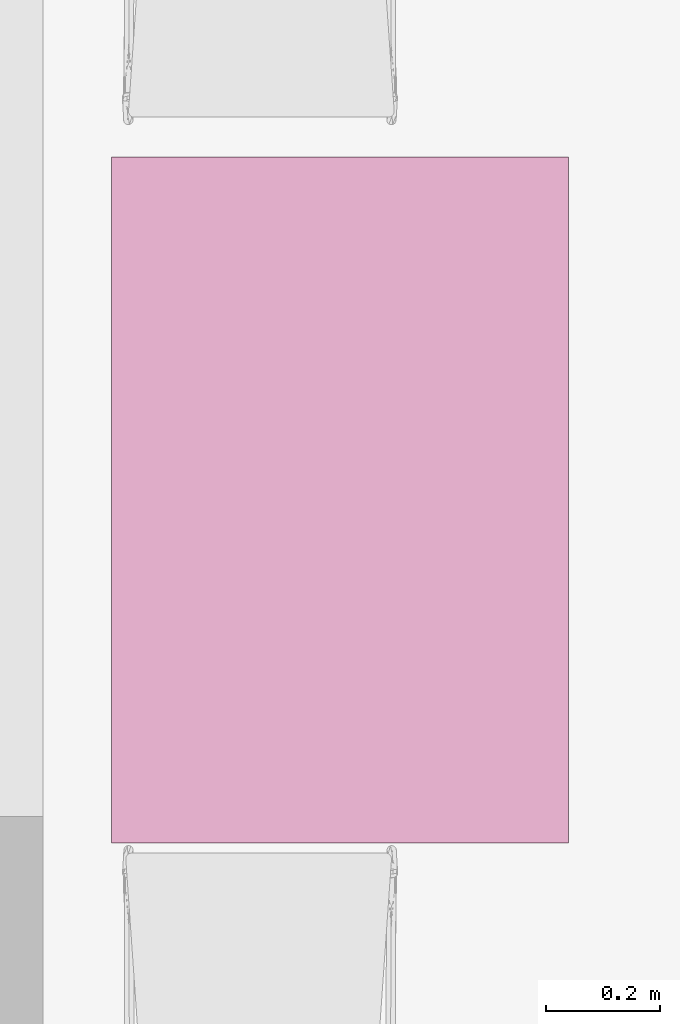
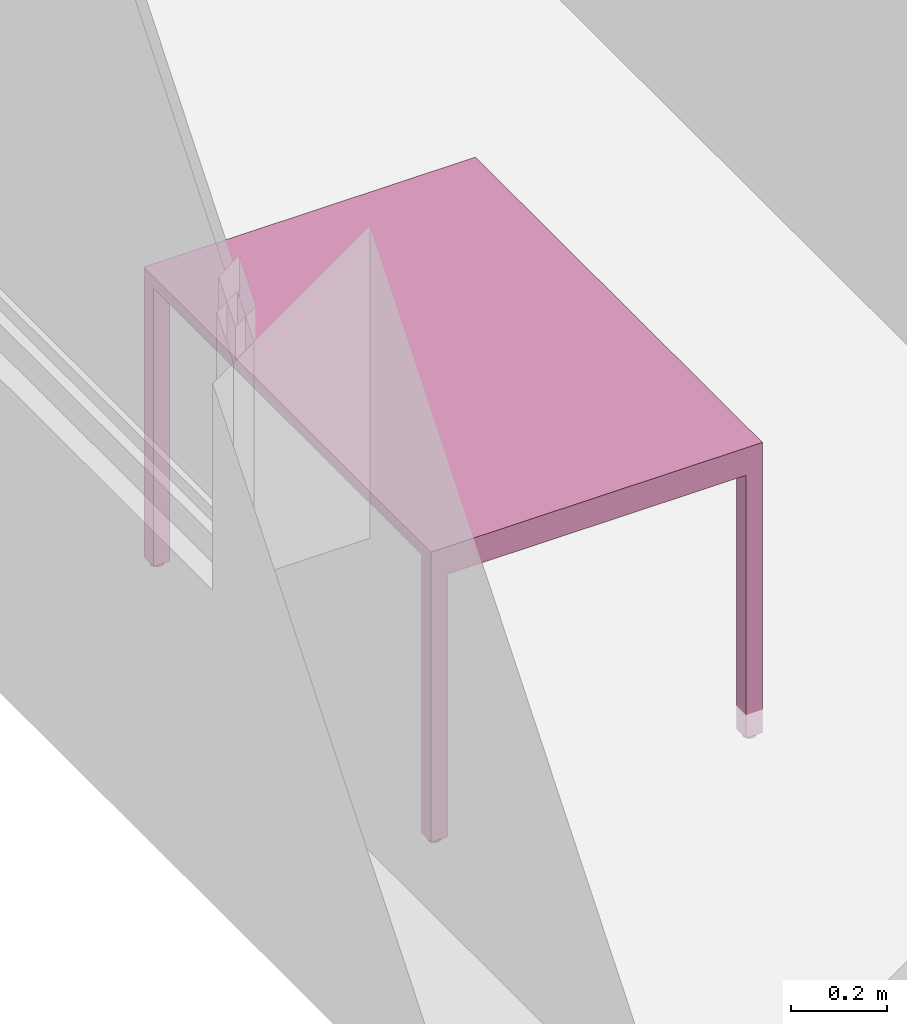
# One storey, part 28 of 48: 1 furnishing.
"""IFC2X3 building model written with IfcOpenShell, lengths in millimetres."""

from ifc_helpers import new_model, entity, si_unit, converted_unit, derived_unit, direction, frame, frame_2d, origin, origin_2d_with_axis, place, context, subcontext, project, spatial, polyline, rectangle, circle, outline, extrude, source, transform, mapped, material, material_list, type_object, type_shapes, element, save


model = new_model("IFC2X3")

# Units and contexts
model_context = context("Model", 3, precision=0.01, world=origin(), true_north=direction((6.12303176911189e-17, 1.0)))
body_context = subcontext(model_context, "Body", "Model", "MODEL_VIEW")
ifc_project = project(units=[si_unit("LENGTHUNIT", "METRE", prefix="MILLI"), si_unit("AREAUNIT", "SQUARE_METRE"), si_unit("VOLUMEUNIT", "CUBIC_METRE"), converted_unit("PLANEANGLEUNIT", "DEGREE", entity("IfcRatioMeasure", 0.0174532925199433), si_unit("PLANEANGLEUNIT", "RADIAN"), dimensions=[0, 0, 0, 0, 0, 0, 0]), si_unit("MASSUNIT", "GRAM", prefix="KILO"), derived_unit("MASSDENSITYUNIT", [(si_unit("MASSUNIT", "GRAM", prefix="KILO"), 1), (si_unit("LENGTHUNIT", "METRE"), -3)]), si_unit("TIMEUNIT", "SECOND"), si_unit("FREQUENCYUNIT", "HERTZ"), si_unit("THERMODYNAMICTEMPERATUREUNIT", "DEGREE_CELSIUS"), derived_unit("THERMALTRANSMITTANCEUNIT", [(si_unit("MASSUNIT", "GRAM", prefix="KILO"), 1), (si_unit("THERMODYNAMICTEMPERATUREUNIT", "KELVIN"), -1), (si_unit("TIMEUNIT", "SECOND"), -3)]), derived_unit("VOLUMETRICFLOWRATEUNIT", [(si_unit("LENGTHUNIT", "METRE"), 3), (si_unit("TIMEUNIT", "SECOND"), -1)]), si_unit("ELECTRICCURRENTUNIT", "AMPERE"), si_unit("ELECTRICVOLTAGEUNIT", "VOLT"), si_unit("POWERUNIT", "WATT"), si_unit("FORCEUNIT", "NEWTON", prefix="KILO"), si_unit("ILLUMINANCEUNIT", "LUX"), si_unit("LUMINOUSFLUXUNIT", "LUMEN"), si_unit("LUMINOUSINTENSITYUNIT", "CANDELA"), derived_unit("USERDEFINED", [(si_unit("MASSUNIT", "GRAM", prefix="KILO"), -1), (si_unit("LENGTHUNIT", "METRE"), -2), (si_unit("TIMEUNIT", "SECOND"), 3), (si_unit("LUMINOUSFLUXUNIT", "LUMEN"), 1)]), derived_unit("LINEARVELOCITYUNIT", [(si_unit("LENGTHUNIT", "METRE"), 1), (si_unit("TIMEUNIT", "SECOND"), -1)]), si_unit("PRESSUREUNIT", "PASCAL"), derived_unit("USERDEFINED", [(si_unit("LENGTHUNIT", "METRE"), -2), (si_unit("MASSUNIT", "GRAM", prefix="KILO"), 1), (si_unit("TIMEUNIT", "SECOND"), -2)]), derived_unit("LINEARFORCEUNIT", [(si_unit("MASSUNIT", "GRAM", prefix="KILO"), 1), (si_unit("LENGTHUNIT", "METRE"), 1), (si_unit("TIMEUNIT", "SECOND"), -2), (si_unit("LENGTHUNIT", "METRE"), -1)]), derived_unit("PLANARFORCEUNIT", [(si_unit("MASSUNIT", "GRAM", prefix="KILO"), 1), (si_unit("LENGTHUNIT", "METRE"), 1), (si_unit("TIMEUNIT", "SECOND"), -2), (si_unit("LENGTHUNIT", "METRE"), -2)])], contexts=[model_context])

# Site, building, storey, space
site_placement = place(None, origin())
site = spatial("IfcSite", under=ifc_project, at=site_placement, Name="Default", CompositionType="ELEMENT")
building_placement = place(site_placement, origin())
building = spatial("IfcBuilding", under=site, at=building_placement, Name="SMA ARH", CompositionType="ELEMENT")
storey_placement = place(building_placement, frame((0.0, 0.0, 3300.0)))
storey = spatial("IfcBuildingStorey", under=building, at=storey_placement, Name="2 Korrus", CompositionType="ELEMENT", Elevation=3299.99999999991)
space_placement = place(storey_placement, origin())
space = spatial("IfcSpace", under=storey, at=space_placement, Name="2-18", CompositionType="ELEMENT", InteriorOrExteriorSpace="INTERNAL")

# Furnishing
ifc_material_1 = material(Name="Metal - Stud Layer")
ifc_material_2 = material(Name="<Unnamed>")
ifc_material_list = material_list([ifc_material_1, ifc_material_2])
furniture_type = type_object("IfcFurnitureType", Name="laud_1200x800:laud_1200x800", material=ifc_material_list)
shared_shape = source(origin(), body_context, "Body", "SweptSolid", [
    extrude(rectangle(XDim=800.0, YDim=1200.0, at=origin_2d_with_axis()), frame((-150.0, 550.0, 720.0), z_axis=(0.0, 0.0, 1.0), x_axis=(-1.0, 0.0, 0.0)), (0.0, 0.0, 1.0), 29.9999999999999),
    extrude(outline(polyline([(-400.0, -365.0), (400.0, -365.0), (400.0, 345.0), (360.0, 345.0), (360.0, -325.0), (-360.0, -325.0), (-360.0, 345.0), (-400.0, 345.0), (-400.0, -365.0)])), frame((-150.0, -50.0, 355.0), z_axis=(0.0, 1.0, 0.0), x_axis=(1.0, 0.0, 0.0)), (0.0, 0.0, 1.0), 40.0000000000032),
    extrude(outline(polyline([(-400.0, -365.0), (400.0, -365.0), (400.0, 345.0), (360.0, 345.0), (360.0, -325.0), (-360.0, -325.0), (-360.0, 345.0), (-400.0, 345.0), (-400.0, -365.0)])), frame((-150.0, 1110.0, 355.0), z_axis=(0.0, 1.0, 0.0), x_axis=(1.0, 0.0, 0.0)), (0.0, 0.0, 1.0), 40.0000000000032),
    extrude(circle(Radius=15.0, at=frame_2d((0.0, 5.07593966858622e-14), x_axis=(1.0, 0.0))), frame((-529.847171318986, -29.9550233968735, 0.0)), (0.0, 0.0, 1.0), 10.0),
    extrude(circle(Radius=15.0, at=origin_2d_with_axis()), frame((-529.847171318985, 1129.95502339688, 0.0)), (0.0, 0.0, 1.0), 10.0),
    extrude(circle(Radius=15.0, at=origin_2d_with_axis()), frame((230.152828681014, -29.9550233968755, 0.0)), (0.0, 0.0, 1.0), 10.0),
    extrude(circle(Radius=15.0, at=origin_2d_with_axis()), frame((230.152828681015, 1129.95502339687, 0.0)), (0.0, 0.0, 1.0), 10.0),
])
type_shapes(furniture_type, [shared_shape])
furnishing_placement = place(space_placement, frame((570.0, 7849.0, 0.0)))
element("IfcFurnishingElement", 1, at=furnishing_placement, inside=space, type_object=furniture_type, material=ifc_material_1, Name="laud_1200x800:laud_1200x800", ObjectType="laud_1200x800:laud_1200x800", context=body_context, shape_type="MappedRepresentation", body=[
    mapped(shared_shape, transform((0.0, 0.0, 0.0), scale=1.0)),
])

save(model, "model.ifc")
